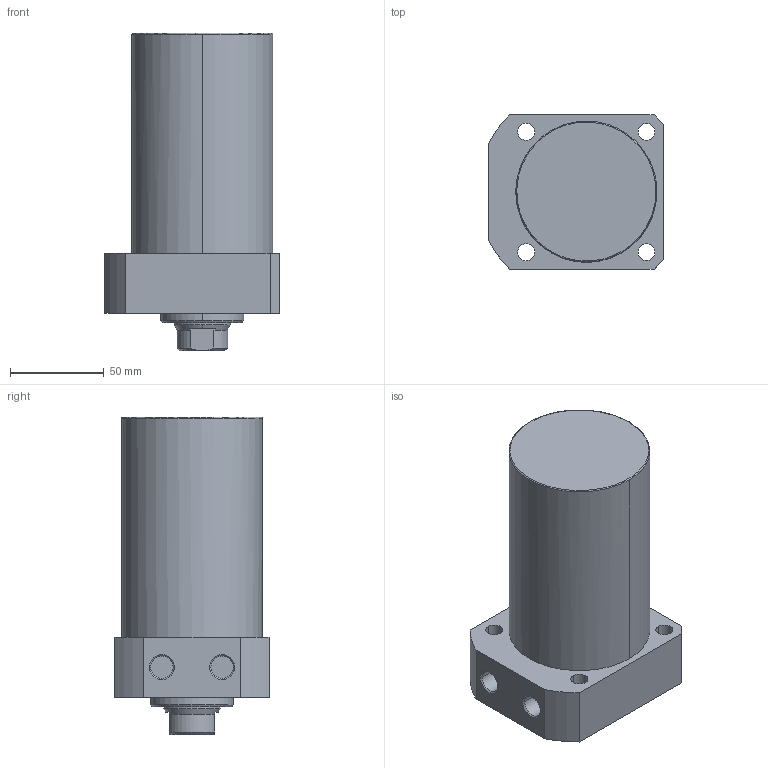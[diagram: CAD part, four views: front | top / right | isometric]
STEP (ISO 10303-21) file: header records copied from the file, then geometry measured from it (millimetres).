
FILE_DESCRIPTION((' '),'2;1');
FILE_NAME( 'TLLR-075CA-080.STEP.stp', '2025-10-24T16:35:05', (' '), ('--- Datakit www.datakit.com---'), ' Datakit CrossCadWare V2024.1 Dec 21 2023', 'Mastercam 2025', ' ');
FILE_SCHEMA(('AUTOMOTIVE_DESIGN { 1 0 10303 214 1 1 1 1 }'));
Length unit declared in the file: millimetre
Products named in the file (1): TLLR-075CA-080
Bounding box: 93 x 82 x 169 mm (x, y, z)
Volume: 751990.4 mm3; surface area: 61228.7 mm2
Topology: 1 solids, 1 shells, 63 faces, 177 edges, 122 vertices
Faces by surface type: cylinder 28, plane 19, cone 14, torus 2
Entity records: 2168 total; most frequent: CARTESIAN_POINT 405, DIRECTION 400, ORIENTED_EDGE 350, EDGE_CURVE 175, AXIS2_PLACEMENT_3D 169, VERTEX_POINT 122, CIRCLE 105, EDGE_LOOP 79
